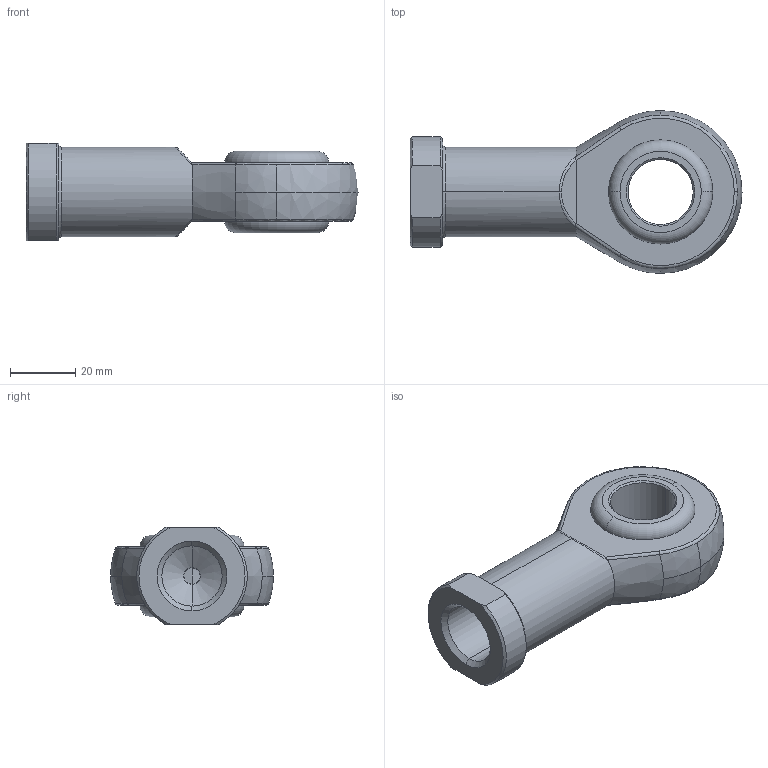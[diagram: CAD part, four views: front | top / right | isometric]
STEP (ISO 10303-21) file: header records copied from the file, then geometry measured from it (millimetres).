
FILE_DESCRIPTION (( 'STEP AP214' ), '1' );
FILE_NAME ('100_Mafsal_Baglantý.STEP', '2020-12-04T18:50:22', ( '' ), ( '' ), 'SwSTEP 2.0', 'SolidWorks 2021', '' );
FILE_SCHEMA (( 'AUTOMOTIVE_DESIGN' ));
Length unit declared in the file: millimetre
Products named in the file (1): 100_Mafsal_Baglantý
Bounding box: 102 x 50 x 30 mm (x, y, z)
Volume: 52677.7 mm3; surface area: 15851.3 mm2
Topology: 1 solids, 1 shells, 59 faces, 140 edges, 85 vertices
Faces by surface type: cone 14, cylinder 12, plane 10, torus 9, bspline 8, sphere 6
Entity records: 2233 total; most frequent: CARTESIAN_POINT 901, DIRECTION 275, ORIENTED_EDGE 274, EDGE_CURVE 137, AXIS2_PLACEMENT_3D 124, VERTEX_POINT 84, CIRCLE 72, EDGE_LOOP 65
